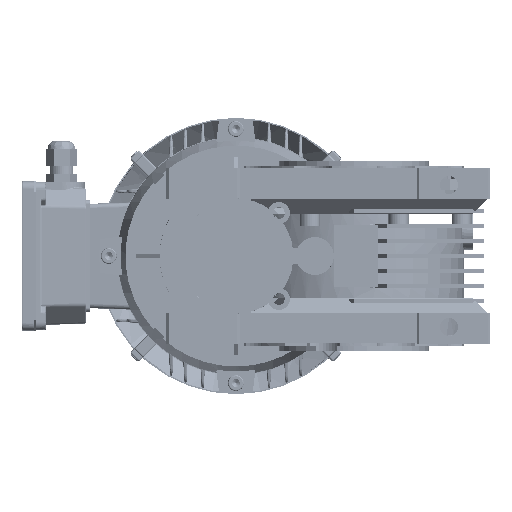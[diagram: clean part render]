
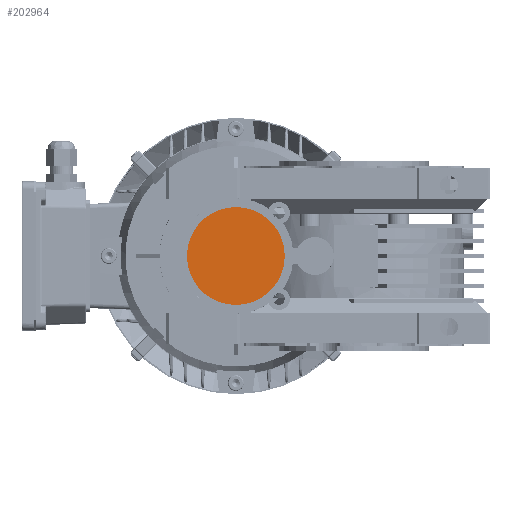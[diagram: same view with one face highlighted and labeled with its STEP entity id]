
A CAD part, left-side view. The second image highlights one B-rep face of the part: STEP entity #202964.
In plain terms, the highlighted planar face has unit normal (-1, 0, 0).
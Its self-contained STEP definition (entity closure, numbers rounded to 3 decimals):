
#935 = PLANE ( 'NONE',  #197659 ) ;
#974 = CARTESIAN_POINT ( 'NONE',  ( -84.51, 90.5, 0. ) ) ;
#976 = DIRECTION ( 'NONE',  ( 1., 0., 0. ) ) ;
#979 = DIRECTION ( 'NONE',  ( 0., 0., -1. ) ) ;
#4330 = FACE_OUTER_BOUND ( 'NONE', #57069, .T. ) ;
#11376 = EDGE_CURVE ( 'NONE', #63305, #63317, #222252, .T. ) ;
#11491 = EDGE_CURVE ( 'NONE', #63317, #63305, #223457, .T. ) ;
#11860 = ORIENTED_EDGE ( 'NONE', *, *, #11491, .T. ) ;
#11864 = ORIENTED_EDGE ( 'NONE', *, *, #11376, .T. ) ;
#57069 = EDGE_LOOP ( 'NONE', ( #11860, #11864 ) ) ;
#63305 = VERTEX_POINT ( 'NONE', #214851 ) ;
#63317 = VERTEX_POINT ( 'NONE', #214858 ) ;
#197659 = AXIS2_PLACEMENT_3D ( 'NONE', #974, #976, #979 ) ;
#202964 = ADVANCED_FACE ( 'NONE', ( #4330 ), #935, .F. ) ;
#205491 = AXIS2_PLACEMENT_3D ( 'NONE', #211367, #211370, #211373 ) ;
#205851 = AXIS2_PLACEMENT_3D ( 'NONE', #225414, #225416, #225418 ) ;
#211367 = CARTESIAN_POINT ( 'NONE',  ( -84.51, 75., 0. ) ) ;
#211370 = DIRECTION ( 'NONE',  ( -1., 0., 0. ) ) ;
#211373 = DIRECTION ( 'NONE',  ( 0., 0., 1. ) ) ;
#214851 = CARTESIAN_POINT ( 'NONE',  ( -84.51, 75., -31. ) ) ;
#214858 = CARTESIAN_POINT ( 'NONE',  ( -84.51, 75., 31. ) ) ;
#222252 = CIRCLE ( 'NONE', #205491, 31. ) ;
#223457 = CIRCLE ( 'NONE', #205851, 31. ) ;
#225414 = CARTESIAN_POINT ( 'NONE',  ( -84.51, 75., 0. ) ) ;
#225416 = DIRECTION ( 'NONE',  ( -1., 0., 0. ) ) ;
#225418 = DIRECTION ( 'NONE',  ( 0., 0., 1. ) ) ;
